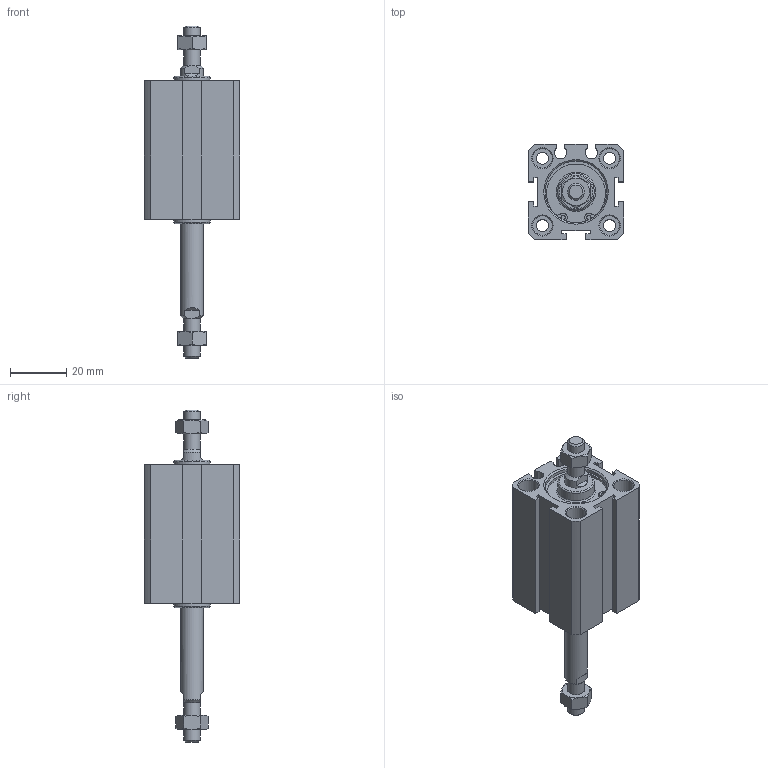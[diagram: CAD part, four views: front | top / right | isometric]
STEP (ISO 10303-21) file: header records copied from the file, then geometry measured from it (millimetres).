
FILE_DESCRIPTION((''),'2;1');
FILE_NAME('I:\3D電子目錄\氣缸\JDD\JDD-B\JDD20-B\JDD20x30-B.stp','2007-02-09T10:01:50',('662F206'),(''),'Autodesk Inventor 10','Autodesk Inventor 10','');
FILE_SCHEMA(('AUTOMOTIVE_DESIGN { 1 0 10303 214 1 1 1 1 }'));
Length unit declared in the file: millimetre
Products named in the file (3): JDD20-B; R 形環 23
Assembly tree (3 placements, depth 2):
  JDD20-B
    JDD20-B
    R 形環 23  x2
Bounding box: 34 x 34 x 118.5 mm (x, y, z)
Volume: 49116.9 mm3; surface area: 17948.3 mm2
Topology: 3 solids, 3 shells, 179 faces, 407 edges, 260 vertices
Faces by surface type: plane 84, cylinder 51, cone 32, bspline 10, torus 2
Full cylindrical faces by diameter (mm): 1.5 x6, 4.3 x4, 6 x4, 7 x8, 8 x1, 13 x2, 22 x4, 23.2 x2
Entity records: 4509 total; most frequent: CARTESIAN_POINT 953, DIRECTION 732, ORIENTED_EDGE 638, EDGE_CURVE 319, AXIS2_PLACEMENT_3D 294, EDGE_LOOP 256, VERTEX_POINT 233, FACE_OUTER_BOUND 167
